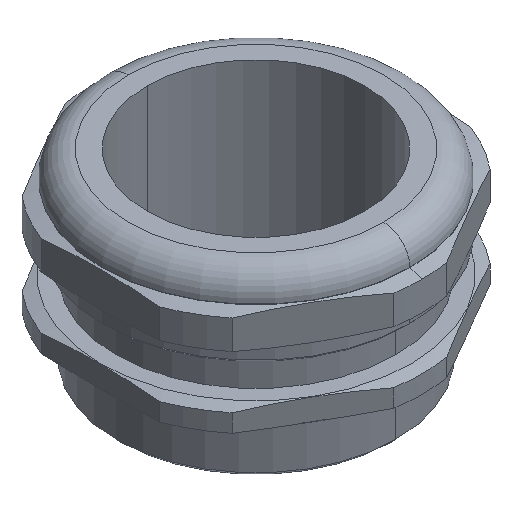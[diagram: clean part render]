
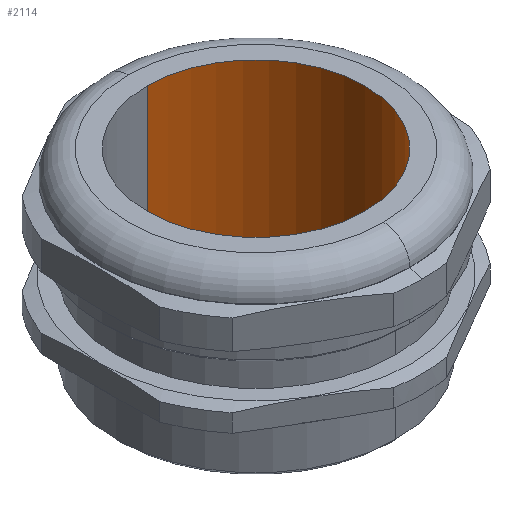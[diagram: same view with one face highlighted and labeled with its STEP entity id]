
A CAD part, isometric view. The second image highlights one B-rep face of the part: STEP entity #2114.
In plain terms, the highlighted cylindrical face has radius 35 mm (diameter 70 mm), a partial arc.
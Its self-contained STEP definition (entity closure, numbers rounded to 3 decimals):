
#238 = DIRECTION ( 'NONE',  ( 0., 0., -1. ) ) ;
#239 = VECTOR ( 'NONE', #238, 1000. ) ;
#243 = CARTESIAN_POINT ( 'NONE',  ( 0., 35., 0. ) ) ;
#244 = LINE ( 'NONE', #243, #239 ) ;
#1031 = CIRCLE ( 'NONE', #1038, 35. ) ;
#1035 = DIRECTION ( 'NONE',  ( 0., 1., 0. ) ) ;
#1036 = DIRECTION ( 'NONE',  ( 0., 0., -1. ) ) ;
#1037 = CARTESIAN_POINT ( 'NONE',  ( 0., 0., 60. ) ) ;
#1038 = AXIS2_PLACEMENT_3D ( 'NONE', #1037, #1036, #1035 ) ;
#1064 = CYLINDRICAL_SURFACE ( 'NONE', #1073, 35. ) ;
#1071 = DIRECTION ( 'NONE',  ( 0., 1., 0. ) ) ;
#1072 = DIRECTION ( 'NONE',  ( 0., 0., -1. ) ) ;
#1073 = AXIS2_PLACEMENT_3D ( 'NONE', #1102, #1072, #1071 ) ;
#1082 = CARTESIAN_POINT ( 'NONE',  ( 0., 0., 0. ) ) ;
#1102 = CARTESIAN_POINT ( 'NONE',  ( 0., 0., 0. ) ) ;
#1103 = DIRECTION ( 'NONE',  ( 0., 1., 0. ) ) ;
#1121 = DIRECTION ( 'NONE',  ( 0., 0., -1. ) ) ;
#1122 = AXIS2_PLACEMENT_3D ( 'NONE', #1082, #1121, #1103 ) ;
#1123 = CIRCLE ( 'NONE', #1122, 35. ) ;
#1124 = FACE_OUTER_BOUND ( 'NONE', #2091, .T. ) ;
#1562 = VERTEX_POINT ( 'NONE', #2818 ) ;
#1570 = VERTEX_POINT ( 'NONE', #2834 ) ;
#1571 = VERTEX_POINT ( 'NONE', #2833 ) ;
#1579 = EDGE_CURVE ( 'NONE', #1570, #1562, #2856, .T. ) ;
#1584 = VERTEX_POINT ( 'NONE', #2809 ) ;
#1661 = EDGE_CURVE ( 'NONE', #1571, #1584, #244, .T. ) ;
#2019 = ORIENTED_EDGE ( 'NONE', *, *, #2065, .F. ) ;
#2065 = EDGE_CURVE ( 'NONE', #1571, #1570, #1031, .T. ) ;
#2066 = ORIENTED_EDGE ( 'NONE', *, *, #2111, .T. ) ;
#2078 = ORIENTED_EDGE ( 'NONE', *, *, #1661, .T. ) ;
#2091 = EDGE_LOOP ( 'NONE', ( #2115, #2019, #2078, #2066 ) ) ;
#2111 = EDGE_CURVE ( 'NONE', #1584, #1562, #1123, .T. ) ;
#2114 = ADVANCED_FACE ( 'NONE', ( #1124 ), #1064, .F. ) ;
#2115 = ORIENTED_EDGE ( 'NONE', *, *, #1579, .F. ) ;
#2809 = CARTESIAN_POINT ( 'NONE',  ( 0., 35., 0. ) ) ;
#2818 = CARTESIAN_POINT ( 'NONE',  ( 0., -35., 0. ) ) ;
#2833 = CARTESIAN_POINT ( 'NONE',  ( 0., 35., 60. ) ) ;
#2834 = CARTESIAN_POINT ( 'NONE',  ( 0., -35., 60. ) ) ;
#2846 = DIRECTION ( 'NONE',  ( 0., 0., -1. ) ) ;
#2847 = VECTOR ( 'NONE', #2846, 1000. ) ;
#2848 = CARTESIAN_POINT ( 'NONE',  ( 0., -35., 0. ) ) ;
#2856 = LINE ( 'NONE', #2848, #2847 ) ;
